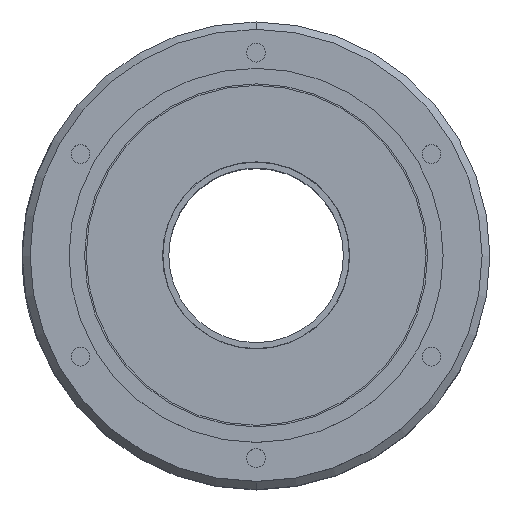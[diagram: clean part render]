
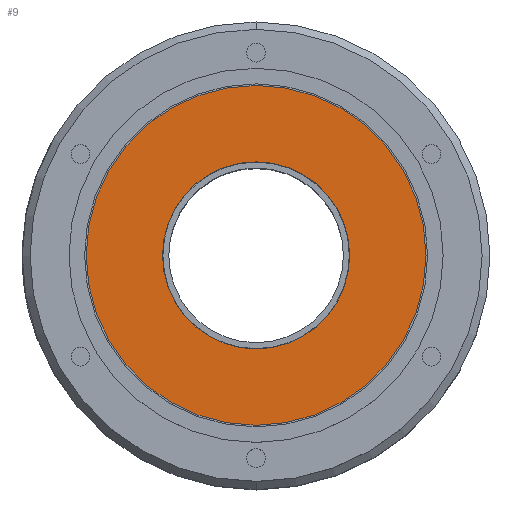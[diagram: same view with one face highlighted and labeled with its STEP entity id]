
A CAD part, top view. The second image highlights one B-rep face of the part: STEP entity #9.
In plain terms, the highlighted planar face has unit normal (0, 0, 1).
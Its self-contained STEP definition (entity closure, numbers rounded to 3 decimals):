
#5 = ORIENTED_EDGE ( 'NONE', *, *, #4974, .F. ) ;
#9 = ADVANCED_FACE ( 'NONE', ( #1025, #1022 ), #1024, .T. ) ;
#13 = EDGE_LOOP ( 'NONE', ( #33, #46 ) ) ;
#14 = ORIENTED_EDGE ( 'NONE', *, *, #36, .F. ) ;
#16 = EDGE_LOOP ( 'NONE', ( #14, #5 ) ) ;
#33 = ORIENTED_EDGE ( 'NONE', *, *, #4956, .T. ) ;
#36 = EDGE_CURVE ( 'NONE', #4975, #4977, #1041, .T. ) ;
#46 = ORIENTED_EDGE ( 'NONE', *, *, #47, .T. ) ;
#47 = EDGE_CURVE ( 'NONE', #4954, #4957, #1088, .T. ) ;
#1009 = CARTESIAN_POINT ( 'NONE',  ( 0., 0., 151. ) ) ;
#1011 = DIRECTION ( 'NONE',  ( 0., -1., 0. ) ) ;
#1020 = AXIS2_PLACEMENT_3D ( 'NONE', #1021, #1023, #1011 ) ;
#1021 = CARTESIAN_POINT ( 'NONE',  ( 0., -28., 151. ) ) ;
#1022 = FACE_OUTER_BOUND ( 'NONE', #13, .T. ) ;
#1023 = DIRECTION ( 'NONE',  ( 0., 0., 1. ) ) ;
#1024 = PLANE ( 'NONE',  #1020 ) ;
#1025 = FACE_BOUND ( 'NONE', #16, .T. ) ;
#1032 = DIRECTION ( 'NONE',  ( 1., 0., 0. ) ) ;
#1033 = DIRECTION ( 'NONE',  ( 0., 0., 1. ) ) ;
#1040 = AXIS2_PLACEMENT_3D ( 'NONE', #1085, #1084, #1083 ) ;
#1041 = CIRCLE ( 'NONE', #1060, 30. ) ;
#1060 = AXIS2_PLACEMENT_3D ( 'NONE', #1009, #1033, #1032 ) ;
#1083 = DIRECTION ( 'NONE',  ( 1., 0., 0. ) ) ;
#1084 = DIRECTION ( 'NONE',  ( 0., 0., 1. ) ) ;
#1085 = CARTESIAN_POINT ( 'NONE',  ( 0., 0., 151. ) ) ;
#1088 = CIRCLE ( 'NONE', #1040, 54.5 ) ;
#3787 = DIRECTION ( 'NONE',  ( 1., 0., 0. ) ) ;
#3788 = DIRECTION ( 'NONE',  ( 0., 0., 1. ) ) ;
#3790 = CARTESIAN_POINT ( 'NONE',  ( 54.5, 0., 151. ) ) ;
#3795 = CARTESIAN_POINT ( 'NONE',  ( 0., 0., 151. ) ) ;
#3796 = CARTESIAN_POINT ( 'NONE',  ( -54.5, 0., 151. ) ) ;
#3798 = AXIS2_PLACEMENT_3D ( 'NONE', #3795, #3788, #3787 ) ;
#3803 = CIRCLE ( 'NONE', #3798, 54.5 ) ;
#3813 = DIRECTION ( 'NONE',  ( 1., 0., 0. ) ) ;
#3814 = DIRECTION ( 'NONE',  ( 0., 0., 1. ) ) ;
#3815 = CARTESIAN_POINT ( 'NONE',  ( 0., 0., 151. ) ) ;
#3823 = AXIS2_PLACEMENT_3D ( 'NONE', #3815, #3814, #3813 ) ;
#3826 = CARTESIAN_POINT ( 'NONE',  ( -30., 0., 151. ) ) ;
#3827 = CARTESIAN_POINT ( 'NONE',  ( 30., 0., 151. ) ) ;
#3828 = CIRCLE ( 'NONE', #3823, 30. ) ;
#4954 = VERTEX_POINT ( 'NONE', #3796 ) ;
#4956 = EDGE_CURVE ( 'NONE', #4957, #4954, #3803, .T. ) ;
#4957 = VERTEX_POINT ( 'NONE', #3790 ) ;
#4974 = EDGE_CURVE ( 'NONE', #4977, #4975, #3828, .T. ) ;
#4975 = VERTEX_POINT ( 'NONE', #3827 ) ;
#4977 = VERTEX_POINT ( 'NONE', #3826 ) ;
